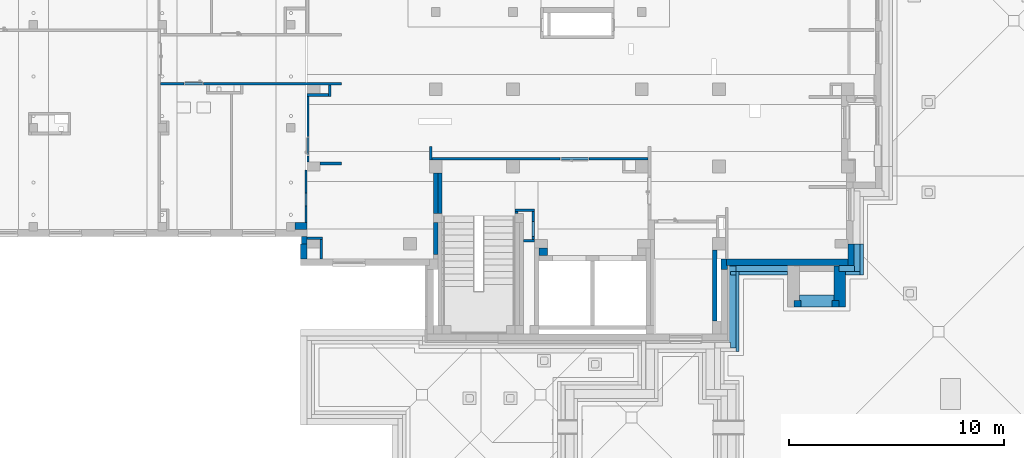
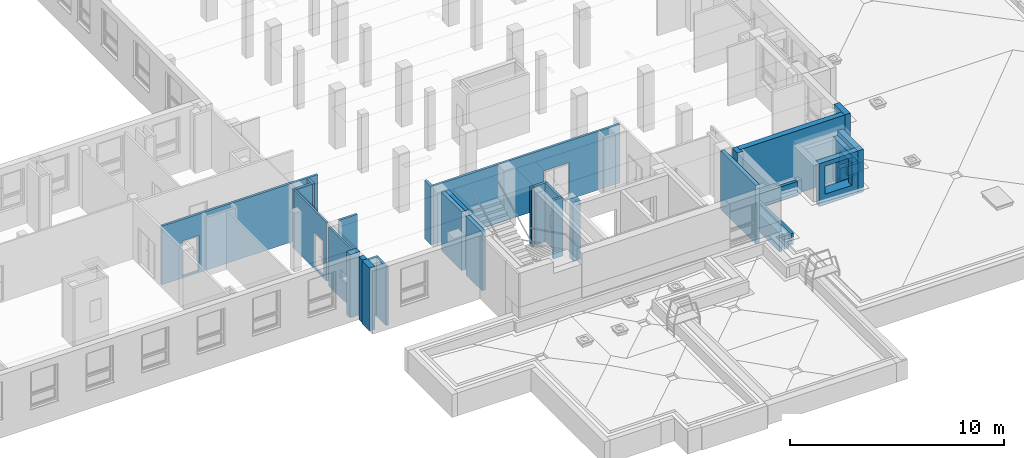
# One storey, part 22 of 50: 31 walls, 7 openings.
"""IFC4 building model written with IfcOpenShell, lengths in metres."""

from ifc_helpers import new_model, entity, si_unit, converted_unit, derived_unit, frame, frame_2d, origin, origin_with_axes, place, context, subcontext, project, spatial, polyline, rectangle, outline, extrude, clip, bounded_halfspace, material, layer, layer_set, layer_usage, element, save


model = new_model("IFC4")

# Units and contexts
model_context = context("Model", 3, precision=1e-05, world=origin())
body_context = subcontext(model_context, "Body", "Model", "MODEL_VIEW")
ifc_project = project(units=[si_unit("LENGTHUNIT", "METRE"), si_unit("AREAUNIT", "SQUARE_METRE"), si_unit("VOLUMEUNIT", "CUBIC_METRE"), si_unit("MASSUNIT", "GRAM", prefix="KILO"), converted_unit("PLANEANGLEUNIT", "DEGREE", entity("IfcPlaneAngleMeasure", 0.0174532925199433), si_unit("PLANEANGLEUNIT", "RADIAN"), dimensions=[0, 0, 0, 0, 0, 0, 0]), derived_unit("THERMALTRANSMITTANCEUNIT", [(si_unit("POWERUNIT", "WATT"), 1), (si_unit("THERMODYNAMICTEMPERATUREUNIT", "KELVIN"), -1), (si_unit("LENGTHUNIT", "METRE"), -2)]), derived_unit("VOLUMETRICFLOWRATEUNIT", [(si_unit("LENGTHUNIT", "METRE"), 3), (converted_unit("TIMEUNIT", "hour", entity("IfcTimeMeasure", 3600.0), si_unit("TIMEUNIT", "SECOND"), dimensions=[0, 0, 1, 0, 0, 0, 0]), -1), (si_unit("LENGTHUNIT", "METRE"), -1)])], contexts=[model_context])

# Site, building, storey
site_placement = place(None, origin())
site = spatial("IfcSite", under=ifc_project, at=site_placement, Name="3. ASŘ", CompositionType="ELEMENT")
building_placement = place(site_placement, origin())
building = spatial("IfcBuilding", under=site, at=building_placement, Name="Pavilon C", CompositionType="ELEMENT")
storey_placement = place(building_placement, frame((0.0, 0.0, 3.6)))
storey = spatial("IfcBuildingStorey", under=building, at=storey_placement, Name="Půdorys 2.NP", CompositionType="ELEMENT", Elevation=3.6)

# Walls
ifc_material_1 = material(Name="ZELEZOBETONOVÁ KCE")
ifc_layer_1 = layer(ifc_material_1, 0.3)
ifc_layer_set_1 = layer_set([ifc_layer_1])
ifc_layer_usage_1 = layer_usage(ifc_layer_set_1, "AXIS2", "POSITIVE", 0.0)
wall_1_placement = place(storey_placement, frame((24.45, -2.82073740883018e-15, -0.1), z_axis=(0.0, 0.0, 1.0), x_axis=(0.0, -1.0, 0.0)))
element("IfcWall", 1, at=wall_1_placement, inside=storey, material=ifc_layer_usage_1, Name="ZELEZOBETONOVÁ KCE", context=body_context, shape_type="SweptSolid", body=[
    extrude(rectangle(XDim=0.72, YDim=0.3, at=frame_2d((0.36, 0.15), x_axis=(1.0, 0.0))), origin_with_axes(), (0.0, 0.0, 1.0), 3.6),
])
ifc_material_2 = material(Name="ZELEZOBETONOVÁ KCE")
ifc_layer_2 = layer(ifc_material_2, 0.3)
ifc_layer_set_2 = layer_set([ifc_layer_2])
ifc_layer_usage_2 = layer_usage(ifc_layer_set_2, "AXIS2", "POSITIVE", 0.0)
wall_2_placement = place(storey_placement, frame((50.25, -1.02000000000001, -0.1), z_axis=(0.0, 0.0, 1.0), x_axis=(0.0, 1.0, 0.0)))
element("IfcWall", 2, at=wall_2_placement, inside=storey, material=ifc_layer_usage_2, Name="ZELEZOBETONOVÁ KCE", context=body_context, shape_type="SweptSolid", body=[
    extrude(rectangle(XDim=1.02, YDim=0.3, at=frame_2d((0.51, 0.15), x_axis=(1.0, 0.0))), origin_with_axes(), (0.0, 0.0, 1.0), 3.6),
])
ifc_material_3 = material(Name="ZELEZOBETONOVÁ KCE")
ifc_layer_3 = layer(ifc_material_3, 0.2)
ifc_layer_set_3 = layer_set([ifc_layer_3])
ifc_layer_usage_3 = layer_usage(ifc_layer_set_3, "AXIS2", "POSITIVE", 0.0)
wall_3_placement = place(storey_placement, frame((43.65, -0.299999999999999, -0.1), z_axis=(0.0, 0.0, 1.0), x_axis=(0.0, -1.0, 0.0)))
element("IfcWall", 3, at=wall_3_placement, inside=storey, material=ifc_layer_usage_3, Name="ZELEZOBETONOVÁ KCE", context=body_context, shape_type="SweptSolid", body=[
    extrude(rectangle(XDim=3.3, YDim=0.2, at=frame_2d((1.65, 0.1), x_axis=(1.0, 0.0))), origin_with_axes(), (0.0, 0.0, 1.0), 3.35),
])
ifc_material_4 = material(Name="ZELEZOBETONOVÁ KCE")
ifc_layer_4 = layer(ifc_material_4, 0.2)
ifc_layer_set_4 = layer_set([ifc_layer_4])
ifc_layer_usage_4 = layer_usage(ifc_layer_set_4, "AXIS2", "POSITIVE", 0.0)
wall_4_placement = place(storey_placement, frame((31.05, 1.4, -0.1), z_axis=(0.0, 0.0, 1.0), x_axis=(0.0, 1.0, 0.0)))
element("IfcWall", 4, at=wall_4_placement, inside=storey, material=ifc_layer_usage_4, Name="ZELEZOBETONOVÁ KCE", context=body_context, shape_type="SweptSolid", body=[
    extrude(rectangle(XDim=1.9, YDim=0.2, at=frame_2d((0.949999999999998, 0.1), x_axis=(1.0, 0.0))), origin_with_axes(), (0.0, 0.0, 1.0), 3.35),
])
ifc_material_5 = material(Name="ZELEZOBETONOVÁ KCE")
ifc_layer_5 = layer(ifc_material_5, 0.2)
ifc_layer_set_5 = layer_set([ifc_layer_5])
ifc_layer_usage_5 = layer_usage(ifc_layer_set_5, "AXIS2", "POSITIVE", 0.0)
wall_5_placement = place(storey_placement, frame((30.85, 1.4, -0.1), z_axis=(0.0, 0.0, 1.0), x_axis=(0.0, 1.0, 0.0)))
element("IfcWall", 5, at=wall_5_placement, inside=storey, material=ifc_layer_usage_5, Name="ZELEZOBETONOVÁ KCE", context=body_context, shape_type="SweptSolid", body=[
    extrude(rectangle(XDim=1.9, YDim=0.2, at=frame_2d((0.949999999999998, 0.1), x_axis=(1.0, 0.0))), origin_with_axes(), (0.0, 0.0, 1.0), 3.35),
])
ifc_material_6 = material(Name="ZELEZOBETONOVÁ KCE")
ifc_layer_6 = layer(ifc_material_6, 0.2)
ifc_layer_set_6 = layer_set([ifc_layer_6])
ifc_layer_usage_6 = layer_usage(ifc_layer_set_6, "AXIS2", "POSITIVE", 0.0)
wall_6_placement = place(storey_placement, frame((30.85, -0.499999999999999, -0.1), z_axis=(0.0, 0.0, 1.0), x_axis=(0.0, 1.0, 0.0)))
element("IfcWall", 6, at=wall_6_placement, inside=storey, material=ifc_layer_usage_6, Name="ZELEZOBETONOVÁ KCE", context=body_context, shape_type="SweptSolid", body=[
    extrude(rectangle(XDim=1.5, YDim=0.2, at=frame_2d((0.75, 0.1), x_axis=(1.0, 0.0))), origin_with_axes(), (0.0, 0.0, 1.0), 3.35),
])

# Wall, opening
ifc_material_7 = material(Name="ZDIVO Z CDm")
ifc_layer_7 = layer(ifc_material_7, 0.125)
ifc_layer_set_7 = layer_set([ifc_layer_7])
ifc_layer_usage_7 = layer_usage(ifc_layer_set_7, "AXIS2", "POSITIVE", 0.0)
wall_7_placement = place(storey_placement, frame((30.575, 3.9, -0.1)))
wall_7 = element("IfcWall", 7, at=wall_7_placement, inside=storey, material=ifc_layer_usage_7, Name="ZDIVO Z CDm", context=body_context, shape_type="SweptSolid", body=[
    extrude(rectangle(XDim=10.075, YDim=0.125, at=frame_2d((5.0375, 0.0625000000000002), x_axis=(1.0, 0.0))), origin_with_axes(), (0.0, 0.0, 1.0), 3.35),
])
opening_1_placement = place(wall_7_placement, frame((5.976, 0.0, 0.1), z_axis=(0.0, 1.0, 0.0), x_axis=(0.0, 0.0, 1.0)))
element("IfcOpeningElement", 8, at=opening_1_placement, cuts=wall_7, Name="Dveřní otvor", ObjectType="Opening", context=body_context, shape_type="SweptSolid", body=[
    extrude(outline(polyline([(0.0, 1.35), (2.02, 1.35), (2.02, 0.0), (0.0, 0.0), (0.0, 1.35)])), origin_with_axes(), (0.0, 0.0, 1.0), 0.125),
])

# Walls
ifc_material_8 = material(Name="ZDIVO Z CDm")
ifc_layer_8 = layer(ifc_material_8, 0.125)
ifc_layer_set_8 = layer_set([ifc_layer_8])
ifc_layer_usage_8 = layer_usage(ifc_layer_set_8, "AXIS2", "POSITIVE", 0.0)
wall_8_placement = place(storey_placement, frame((30.45, 4.525, -0.1), z_axis=(0.0, 0.0, 1.0), x_axis=(0.0, -1.0, 0.0)))
element("IfcWall", 9, at=wall_8_placement, inside=storey, material=ifc_layer_usage_8, Name="ZDIVO Z CDm", context=body_context, shape_type="SweptSolid", body=[
    extrude(rectangle(XDim=0.625, YDim=0.125, at=frame_2d((0.3125, 0.0625), x_axis=(1.0, 0.0))), origin_with_axes(), (0.0, 0.0, 1.0), 3.35),
])
ifc_material_9 = material(Name="ZDIVO Z CDm")
ifc_layer_9 = layer(ifc_material_9, 0.35)
ifc_layer_set_9 = layer_set([ifc_layer_9])
ifc_layer_usage_9 = layer_usage(ifc_layer_set_9, "AXIS2", "POSITIVE", 0.0)
wall_9_placement = place(storey_placement, frame((35.95, -0.200000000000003, -0.1), z_axis=(0.0, 0.0, 1.0), x_axis=(-1.0, 0.0, 0.0)))
element("IfcWall", 10, at=wall_9_placement, inside=storey, material=ifc_layer_usage_9, Name="ZDIVO Z CDm", context=body_context, shape_type="SweptSolid", body=[
    extrude(rectangle(XDim=0.4, YDim=0.35, at=frame_2d((0.2, 0.175), x_axis=(1.0, 0.0))), origin_with_axes(), (0.0, 0.0, 1.0), 3.35),
])
ifc_material_10 = material(Name="ZELEZOBETONOVÁ KCE")
ifc_layer_10 = layer(ifc_material_10, 0.3)
ifc_layer_set_10 = layer_set([ifc_layer_10])
ifc_layer_usage_10 = layer_usage(ifc_layer_set_10, "AXIS2", "POSITIVE", 0.0)
wall_10_placement = place(storey_placement, frame((44.3, -1.02, -0.1)))
element("IfcWall", 11, at=wall_10_placement, inside=storey, material=ifc_layer_usage_10, Name="ZELEZOBETONOVÁ KCE", context=body_context, shape_type="SweptSolid", body=[
    extrude(rectangle(XDim=5.65, YDim=0.3, at=frame_2d((2.825, 0.15), x_axis=(1.0, 0.0))), origin_with_axes(), (0.0, 0.0, 1.0), 3.6),
])
ifc_material_11 = material(Name="ZDIVO Z CDm")
ifc_layer_11 = layer(ifc_material_11, 0.48)
ifc_layer_set_11 = layer_set([ifc_layer_11])
ifc_layer_usage_11 = layer_usage(ifc_layer_set_11, "AXIS2", "POSITIVE", 0.0)
wall_11_placement = place(storey_placement, frame((44.3, -0.720000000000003, -0.1), z_axis=(0.0, 0.0, 1.0), x_axis=(-1.0, 0.0, 0.0)))
element("IfcWall", 12, at=wall_11_placement, inside=storey, material=ifc_layer_usage_11, Name="ZDIVO Z CDm", context=body_context, shape_type="SweptSolid", body=[
    extrude(outline(polyline([(-0.25, -0.48), (0.0, -0.48), (0.0, 0.0), (-0.3, 0.0), (-0.3, -0.18), (-0.25, -0.18), (-0.25, -0.48)])), frame((0.25, 0.48, 0.0), z_axis=(0.0, 0.0, 1.0), x_axis=(1.0, 0.0, 0.0)), (0.0, 0.0, 1.0), 3.6),
])
ifc_material_12 = material(Name="PÓROBETONOVÉ ZDIVO")
ifc_layer_12 = layer(ifc_material_12, 0.25)
ifc_layer_set_12 = layer_set([ifc_layer_12])
ifc_layer_usage_12 = layer_usage(ifc_layer_set_12, "AXIS2", "POSITIVE", 0.0)
wall_12_placement = place(storey_placement, frame((24.5, 0.350000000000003, -0.1), z_axis=(0.0, 0.0, 1.0), x_axis=(0.0, -1.0, 0.0)))
element("IfcWall", 13, at=wall_12_placement, inside=storey, material=ifc_layer_usage_12, Name="PÓROBETONOVÉ ZDIVO", context=body_context, shape_type="SweptSolid", body=[
    extrude(rectangle(XDim=0.350000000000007, YDim=0.25, at=frame_2d((0.175000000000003, 0.125), x_axis=(1.0, 0.0))), origin_with_axes(), (0.0, 0.0, 1.0), 3.6),
])
ifc_material_13 = material(Name="PÓROBETONOVÉ ZDIVO")
ifc_layer_13 = layer(ifc_material_13, 0.33)
ifc_layer_set_13 = layer_set([ifc_layer_13])
ifc_layer_usage_13 = layer_usage(ifc_layer_set_13, "AXIS2", "POSITIVE", 0.0)
wall_13_placement = place(storey_placement, frame((24.2, 0.670000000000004, -0.1)))
element("IfcWall", 14, at=wall_13_placement, inside=storey, material=ifc_layer_usage_13, Name="PÓROBETONOVÉ ZDIVO", context=body_context, shape_type="SweptSolid", body=[
    extrude(rectangle(XDim=0.549999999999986, YDim=0.33, at=frame_2d((0.274999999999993, 0.165), x_axis=(1.0, 0.0))), origin_with_axes(), (0.0, 0.0, 1.0), 3.6),
])
ifc_material_14 = material(Name="ZDIVO Z CDm")
ifc_layer_14 = layer(ifc_material_14, 0.125)
ifc_layer_set_14 = layer_set([ifc_layer_14])
ifc_layer_usage_14 = layer_usage(ifc_layer_set_14, "AXIS2", "POSITIVE", 0.0)
wall_14_placement = place(storey_placement, frame((35.35, 0.199999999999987, -0.1), z_axis=(0.0, 0.0, 1.0), x_axis=(-1.0, 1.13686837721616e-16, 0.0)))
element("IfcWall", 15, at=wall_14_placement, inside=storey, material=ifc_layer_usage_14, Name="ZDIVO Z CDm", context=body_context, shape_type="SweptSolid", body=[
    extrude(rectangle(XDim=0.5, YDim=0.125, at=frame_2d((0.25, 0.0625), x_axis=(1.0, 0.0))), origin_with_axes(), (0.0, 0.0, 1.0), 3.35),
])
ifc_material_15 = material(Name="ZDIVO Z CDm")
ifc_layer_15 = layer(ifc_material_15, 0.125)
ifc_layer_set_15 = layer_set([ifc_layer_15])
ifc_layer_usage_15 = layer_usage(ifc_layer_set_15, "AXIS2", "POSITIVE", 0.0)
wall_15_placement = place(storey_placement, frame((34.45, 1.5, -0.1), z_axis=(0.0, 0.0, 1.0), x_axis=(0.0, -1.0, 0.0)))
element("IfcWall", 16, at=wall_15_placement, inside=storey, material=ifc_layer_usage_15, Name="ZDIVO Z CDm", context=body_context, shape_type="SweptSolid", body=[
    extrude(rectangle(XDim=0.1, YDim=0.125, at=frame_2d((0.05, 0.0625), x_axis=(1.0, 0.0))), origin_with_axes(), (0.0, 0.0, 1.0), 3.35),
])
ifc_material_16 = material(Name="ZDIVO Z CDm")
ifc_layer_16 = layer(ifc_material_16, 0.125)
ifc_layer_set_16 = layer_set([ifc_layer_16])
ifc_layer_usage_16 = layer_usage(ifc_layer_set_16, "AXIS2", "POSITIVE", 0.0)
wall_16_placement = place(storey_placement, frame((34.45, 1.5, -0.1)))
element("IfcWall", 17, at=wall_16_placement, inside=storey, material=ifc_layer_usage_16, Name="ZDIVO Z CDm", context=body_context, shape_type="SweptSolid", body=[
    extrude(rectangle(XDim=0.900000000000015, YDim=0.125, at=frame_2d((0.450000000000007, 0.0625), x_axis=(1.0, 0.0))), origin_with_axes(), (0.0, 0.0, 1.0), 3.35),
])

# Wall, opening
ifc_material_17 = material(Name="ZDIVO Z CDm")
ifc_layer_17 = layer(ifc_material_17, 0.125)
ifc_layer_set_17 = layer_set([ifc_layer_17])
ifc_layer_usage_17 = layer_usage(ifc_layer_set_17, "AXIS2", "POSITIVE", 0.0)
wall_17_placement = place(storey_placement, frame((35.35, 0.199999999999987, -0.1), z_axis=(0.0, 0.0, 1.0), x_axis=(0.0, 1.0, 0.0)))
wall_17 = element("IfcWall", 18, at=wall_17_placement, inside=storey, material=ifc_layer_usage_17, Name="ZDIVO Z CDm", context=body_context, shape_type="SweptSolid", body=[
    extrude(rectangle(XDim=1.30000000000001, YDim=0.125, at=frame_2d((0.650000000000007, 0.0625), x_axis=(1.0, 0.0))), origin_with_axes(), (0.0, 0.0, 1.0), 3.35),
])
opening_2_placement = place(wall_17_placement, frame((0.15, 0.0, 1.1), z_axis=(0.0, 1.0, 0.0), x_axis=(0.0, 0.0, 1.0)))
element("IfcOpeningElement", 19, at=opening_2_placement, cuts=wall_17, Name="Okenní otvor", ObjectType="Opening", context=body_context, shape_type="SweptSolid", body=[
    extrude(outline(polyline([(0.0, 0.7), (0.7, 0.7), (0.7, 0.0), (0.0, 0.0), (0.0, 0.7)])), origin_with_axes(), (0.0, 0.0, 1.0), 0.125),
])

ifc_material_18 = material(Name="ZDIVO Z CDm")
ifc_layer_18 = layer(ifc_material_18, 0.125)
ifc_layer_set_18 = layer_set([ifc_layer_18])
ifc_layer_usage_18 = layer_usage(ifc_layer_set_18, "AXIS2", "POSITIVE", 0.0)
wall_18_placement = place(storey_placement, frame((17.925, 7.40000000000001, -0.1)))
wall_18 = element("IfcWall", 20, at=wall_18_placement, inside=storey, material=ifc_layer_usage_18, Name="ZDIVO Z CDm", context=body_context, shape_type="SweptSolid", body=[
    extrude(rectangle(XDim=8.42499999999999, YDim=0.125, at=frame_2d((4.2125, 0.0625), x_axis=(1.0, 0.0))), origin_with_axes(), (0.0, 0.0, 1.0), 3.35),
])
opening_3_placement = place(wall_18_placement, frame((1.1, 0.0, 0.1), z_axis=(0.0, 1.0, 0.0), x_axis=(0.0, 0.0, 1.0)))
element("IfcOpeningElement", 21, at=opening_3_placement, cuts=wall_18, Name="Dveřní otvor", ObjectType="Opening", context=body_context, shape_type="SweptSolid", body=[
    extrude(outline(polyline([(0.0, 0.9), (2.02, 0.9), (2.02, 0.0), (0.0, 0.0), (0.0, 0.9)])), origin_with_axes(), (0.0, 0.0, 1.0), 0.125),
])

# Walls
ifc_material_19 = material(Name="ZDIVO Z CDm")
ifc_layer_19 = layer(ifc_material_19, 0.125)
ifc_layer_set_19 = layer_set([ifc_layer_19])
ifc_layer_usage_19 = layer_usage(ifc_layer_set_19, "AXIS2", "POSITIVE", 0.0)
wall_19_placement = place(storey_placement, frame((24.75, 0.199999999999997, -0.1)))
element("IfcWall", 22, at=wall_19_placement, inside=storey, material=ifc_layer_usage_19, Name="ZDIVO Z CDm", context=body_context, shape_type="SweptSolid", body=[
    extrude(rectangle(XDim=0.725, YDim=0.125, at=frame_2d((0.3625, 0.0625), x_axis=(1.0, 0.0))), origin_with_axes(), (0.0, 0.0, 1.0), 3.35),
])
ifc_material_20 = material(Name="ZDIVO Z CDm")
ifc_layer_20 = layer(ifc_material_20, 0.125)
ifc_layer_set_20 = layer_set([ifc_layer_20])
ifc_layer_usage_20 = layer_usage(ifc_layer_set_20, "AXIS2", "POSITIVE", 0.0)
wall_20_placement = place(storey_placement, frame((25.35, 0.199999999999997, -0.1), z_axis=(0.0, 0.0, 1.0), x_axis=(0.0, -1.0, 0.0)))
element("IfcWall", 23, at=wall_20_placement, inside=storey, material=ifc_layer_usage_20, Name="ZDIVO Z CDm", context=body_context, shape_type="SweptSolid", body=[
    extrude(rectangle(XDim=0.92, YDim=0.125, at=frame_2d((0.46, 0.0625), x_axis=(1.0, 0.0))), origin_with_axes(), (0.0, 0.0, 1.0), 3.35),
])
ifc_material_21 = material(Name="ZDIVO Z CDm")
ifc_layer_21 = layer(ifc_material_21, 0.125)
ifc_layer_set_21 = layer_set([ifc_layer_21])
ifc_layer_usage_21 = layer_usage(ifc_layer_set_21, "AXIS2", "POSITIVE", 0.0)
wall_21_placement = place(storey_placement, frame((25.75, 7.40000000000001, -0.1), z_axis=(0.0, 0.0, 1.0), x_axis=(0.0, -1.0, 0.0)))
element("IfcWall", 24, at=wall_21_placement, inside=storey, material=ifc_layer_usage_21, Name="ZDIVO Z CDm", context=body_context, shape_type="SweptSolid", body=[
    extrude(rectangle(XDim=0.525, YDim=0.125, at=frame_2d((0.2625, 0.0625), x_axis=(1.0, 0.0))), origin_with_axes(), (0.0, 0.0, 1.0), 3.35),
])
ifc_material_22 = material(Name="ZDIVO Z CDm")
ifc_layer_22 = layer(ifc_material_22, 0.125)
ifc_layer_set_22 = layer_set([ifc_layer_22])
ifc_layer_usage_22 = layer_usage(ifc_layer_set_22, "AXIS2", "POSITIVE", 0.0)
wall_22_placement = place(storey_placement, frame((25.75, 7.00000000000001, -0.1), z_axis=(0.0, 0.0, 1.0), x_axis=(-1.0, 0.0, 0.0)))
element("IfcWall", 25, at=wall_22_placement, inside=storey, material=ifc_layer_usage_22, Name="ZDIVO Z CDm", context=body_context, shape_type="SweptSolid", body=[
    extrude(rectangle(XDim=1.0, YDim=0.125, at=frame_2d((0.5, 0.0625), x_axis=(1.0, 0.0))), origin_with_axes(), (0.0, 0.0, 1.0), 3.35),
])

# Wall, opening
ifc_material_23 = material(Name="PÓROBETONOVÉ ZDIVO")
ifc_layer_23 = layer(ifc_material_23, 0.1)
ifc_layer_set_23 = layer_set([ifc_layer_23])
ifc_layer_usage_23 = layer_usage(ifc_layer_set_23, "AXIS2", "POSITIVE", 0.0)
wall_23_placement = place(storey_placement, frame((24.75, 6.87500000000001, -0.1), z_axis=(0.0, 0.0, 1.0), x_axis=(0.0, -1.0, 0.0)))
wall_23 = element("IfcWall", 26, at=wall_23_placement, inside=storey, material=ifc_layer_usage_23, Name="PÓROBETONOVÉ ZDIVO", context=body_context, shape_type="SweptSolid", body=[
    extrude(rectangle(XDim=3.07500000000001, YDim=0.1, at=frame_2d((1.5375, 0.05), x_axis=(1.0, 0.0))), origin_with_axes(), (0.0, 0.0, 1.0), 3.35),
])
opening_4_placement = place(wall_23_placement, frame((1.87500000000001, 0.0, 0.1), z_axis=(0.0, 1.0, 0.0), x_axis=(0.0, 0.0, 1.0)))
element("IfcOpeningElement", 27, at=opening_4_placement, cuts=wall_23, Name="Dveřní otvor", ObjectType="Opening", context=body_context, shape_type="SweptSolid", body=[
    extrude(outline(polyline([(0.0, 0.9), (2.02, 0.9), (2.02, 0.0), (0.0, 0.0), (0.0, 0.9)])), origin_with_axes(), (0.0, 0.0, 1.0), 0.1),
])

ifc_material_24 = material(Name="PÓROBETONOVÉ ZDIVO")
ifc_layer_24 = layer(ifc_material_24, 0.1)
ifc_layer_set_24 = layer_set([ifc_layer_24])
ifc_layer_usage_24 = layer_usage(ifc_layer_set_24, "AXIS2", "POSITIVE", 0.0)
wall_24_placement = place(storey_placement, frame((24.75, 1.0, -0.1), z_axis=(0.0, 0.0, 1.0), x_axis=(0.0, 1.0, 0.0)))
wall_24 = element("IfcWall", 28, at=wall_24_placement, inside=storey, material=ifc_layer_usage_24, Name="PÓROBETONOVÉ ZDIVO", context=body_context, shape_type="SweptSolid", body=[
    extrude(rectangle(XDim=2.44999999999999, YDim=0.1, at=frame_2d((1.225, 0.05), x_axis=(1.0, 0.0))), origin_with_axes(), (0.0, 0.0, 1.0), 3.35),
])
opening_5_placement = place(wall_24_placement, frame((1.37, 0.1, 1.1), z_axis=(0.0, -1.0, 0.0), x_axis=(0.0, 0.0, 1.0)))
element("IfcOpeningElement", 29, at=opening_5_placement, cuts=wall_24, Name="Okenní otvor", ObjectType="Opening", context=body_context, shape_type="SweptSolid", body=[
    extrude(outline(polyline([(0.0, 0.619999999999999), (0.5, 0.619999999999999), (0.5, 0.0), (0.0, 0.0), (0.0, 0.619999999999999)])), origin_with_axes(), (0.0, 0.0, 1.0), 0.1),
])

# Wall
ifc_material_25 = material(Name="ZDIVO Z CDm")
ifc_layer_25 = layer(ifc_material_25, 0.125)
ifc_layer_set_25 = layer_set([ifc_layer_25])
ifc_layer_usage_25 = layer_usage(ifc_layer_set_25, "AXIS2", "POSITIVE", 0.0)
wall_25_placement = place(storey_placement, frame((26.35, 3.8, -0.1), z_axis=(0.0, 0.0, 1.0), x_axis=(-1.0, 0.0, 0.0)))
element("IfcWall", 30, at=wall_25_placement, inside=storey, material=ifc_layer_usage_25, Name="ZDIVO Z CDm", context=body_context, shape_type="SweptSolid", body=[
    extrude(rectangle(XDim=1.0, YDim=0.125, at=frame_2d((0.5, 0.0625), x_axis=(1.0, 0.0))), origin_with_axes(), (0.0, 0.0, 1.0), 3.35),
])

# Wall, openings
ifc_material_26 = material(Name="ZELEZOBETONOVÁ KCE")
ifc_layer_26 = layer(ifc_material_26, 0.25)
ifc_material_27 = material(Name="MINERÁLNÍ VATA")
ifc_layer_27 = layer(ifc_material_27, 0.3)
ifc_layer_set_26 = layer_set([ifc_layer_26, ifc_layer_27])
ifc_layer_usage_26 = layer_usage(ifc_layer_set_26, "AXIS2", "POSITIVE", 0.0)
wall_26_placement = place(storey_placement, frame((49.3, -2.39000000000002, 0.05), z_axis=(0.0, 0.0, 1.0), x_axis=(-1.0, 0.0, 0.0)))
wall_26 = element("IfcWall", 31, at=wall_26_placement, inside=storey, material=ifc_layer_usage_26, Name="MINERÁLNÍ VATA", context=body_context, shape_type="Clipping", body=[
    clip(clip(extrude(outline(polyline([(-1.85, -0.55), (-0.25, -0.55), (-0.25, -0.3), (0.0, -0.3), (0.0, 0.0), (-2.1, 0.0), (-2.1, -0.3), (-1.85, -0.3), (-1.85, -0.55)])), frame((1.85, 0.55, 0.0), z_axis=(0.0, 0.0, 1.0), x_axis=(1.0, 0.0, 0.0)), (0.0, 0.0, 1.0), 2.7), bounded_halfspace(frame((0.8, 0.35, 0.26), z_axis=(0.0, 6.67684602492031e-16, 1.0), x_axis=(0.0, -1.0, 0.0)), True, origin_with_axes(), polyline([(-0.25, 0.55), (-0.25, 0.25), (0.0, 0.25), (1.6, 0.25), (1.85, 0.25), (1.85, 0.55), (-0.25, 0.55)]))), bounded_halfspace(frame((0.8, 0.125, 2.45), z_axis=(0.0, 0.0, -1.0), x_axis=(1.0, 0.0, 0.0)), True, origin_with_axes(), polyline([(0.0, 0.0), (1.6, 0.0), (1.6, 0.25), (0.0, 0.25), (0.0, 0.0)]))),
])
opening_6_placement = place(wall_26_placement, frame((0.0, 0.0, 0.85), z_axis=(0.0, 1.0, 0.0), x_axis=(0.0, 0.0, 1.0)))
element("IfcOpeningElement", 32, at=opening_6_placement, cuts=wall_26, Name="Prostup stěnou", ObjectType="Opening", context=body_context, shape_type="SweptSolid", body=[
    extrude(outline(polyline([(0.0, 1.6), (1.6, 1.6), (1.6, 0.0), (0.0, 0.0), (0.0, 1.6)])), origin_with_axes(), (0.0, 0.0, 1.0), 0.25),
])
opening_7_placement = place(wall_26_placement, frame((1.52499999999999, 0.55, 0.85), z_axis=(0.0, -1.0, 0.0), x_axis=(0.0, 0.0, 1.0)))
element("IfcOpeningElement", 33, at=opening_7_placement, cuts=wall_26, Name="Prostup stěnou", ObjectType="Opening", context=body_context, shape_type="SweptSolid", body=[
    extrude(outline(polyline([(0.0, 1.45), (1.6, 1.45), (1.6, 0.0), (0.0, 0.0), (0.0, 1.45)])), origin_with_axes(), (0.0, 0.0, 1.0), 0.3),
])

# Walls
ifc_material_28 = material(Name="ZELEZOBETONOVÁ KCE")
ifc_layer_28 = layer(ifc_material_28, 0.25)
ifc_material_29 = material(Name="MINERÁLNÍ VATA")
ifc_layer_29 = layer(ifc_material_29, 0.3)
ifc_layer_set_27 = layer_set([ifc_layer_28, ifc_layer_29])
ifc_layer_usage_27 = layer_usage(ifc_layer_set_27, "AXIS2", "POSITIVE", 0.0)
wall_27_placement = place(storey_placement, frame((49.3, -1.04000000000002, 0.05), z_axis=(0.0, 0.0, 1.0), x_axis=(0.0, -1.0, 0.0)))
element("IfcWall", 34, at=wall_27_placement, inside=storey, material=ifc_layer_usage_27, Name="MINERÁLNÍ VATA", context=body_context, shape_type="Clipping", body=[
    clip(clip(clip(extrude(outline(polyline([(-1.9, 0.0), (-0.3, 0.0), (-0.3, 0.25), (0.0, 0.25), (0.0, 0.55), (-1.92, 0.55), (-1.92, 0.25), (-1.9, 0.25), (-1.9, 0.0)])), frame((1.9, 0.0, 0.0), z_axis=(0.0, 0.0, 1.0), x_axis=(1.0, 0.0, 0.0)), (0.0, 0.0, 1.0), 2.7), bounded_halfspace(frame((0.0919999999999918, 0.37, 0.7), z_axis=(0.0, 0.0, 1.0), x_axis=(7.5791225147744e-16, -1.0, 0.0)), True, origin_with_axes(), polyline([(-0.0200000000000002, 0.55), (-0.02, 0.25), (0.0, 0.25), (0.24999999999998, 0.25), (0.24999999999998, 0.55), (-0.0200000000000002, 0.55)]))), bounded_halfspace(frame((1.17999999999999, 0.37, 0.26), z_axis=(0.0, 7.5791225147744e-16, 1.0), x_axis=(1.0, 0.0, 3.36849889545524e-16)), True, origin_with_axes(), polyline([(0.24999999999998, 0.25), (1.6, 0.25), (1.9, 0.25), (1.9, 0.55), (0.249999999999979, 0.55), (0.24999999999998, 0.25)]))), bounded_halfspace(frame((0.8, 0.125, 2.45), z_axis=(0.0, 0.0, -1.0), x_axis=(1.0, 0.0, 0.0)), True, origin_with_axes(), polyline([(0.0, 0.0), (1.6, 0.0), (1.6, 0.25), (0.0, 0.25), (0.0, 0.0)]))),
])
ifc_material_30 = material(Name="EPS")
wall_28_placement = place(storey_placement, frame((47.45, -1.02, -0.2), z_axis=(0.0, 0.0, 1.0), x_axis=(-1.0, 7.33463469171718e-17, 0.0)))
element("IfcWall", 35, at=wall_28_placement, inside=storey, material=ifc_material_30, Name="MINERÁLNÍ VATA", context=body_context, shape_type="Clipping", body=[
    clip(clip(clip(extrude(outline(polyline([(-0.54, -0.16), (-0.54, -2.66980702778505e-16), (-2.79999999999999, -2.05369771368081e-16), (-2.79999999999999, -0.16), (-3.09999999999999, -0.16), (-3.09999999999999, -0.43), (3.15389291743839e-17, -0.43), (3.00720022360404e-17, -0.41), (-0.38, -0.41), (-0.38, -0.16), (-0.54, -0.16)])), frame((3.09999999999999, 0.43, 0.0), z_axis=(0.0, 0.0, 1.0), x_axis=(1.0, 0.0, 0.0)), (0.0, 0.0, 1.0), 1.15), bounded_halfspace(frame((1.42999999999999, 0.35, 0.51), z_axis=(0.0, 0.0, 1.0), x_axis=(1.0, 7.33463469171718e-17, 0.0)), True, origin_with_axes(), polyline([(0.3, 0.27), (2.55999999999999, 0.27), (2.55999999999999, 0.43), (0.3, 0.43), (0.3, 0.27)]))), bounded_halfspace(frame((1.35999999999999, 0.145, 0.25), z_axis=(0.0, 0.0, 1.0), x_axis=(7.33463469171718e-17, -1.0, 0.0)), True, origin_with_axes(), polyline([(-1.98035136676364e-17, 0.27), (-1.46692693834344e-18, 0.02), (2.71999999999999, 0.02), (2.71999999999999, 0.27), (-1.98035136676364e-17, 0.27)]))), bounded_halfspace(frame((1.8125, 0.14, 1.05), z_axis=(0.0, 0.0, -1.0), x_axis=(1.0, 0.0, 0.0)), True, origin_with_axes(), polyline([(-8.33851423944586e-33, 1.13686837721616e-16), (3.09999999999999, 1.13686837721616e-16), (3.09999999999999, 0.0200000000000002), (2.71999999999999, 0.0200000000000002), (2.71999999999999, 0.27), (2.55999999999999, 0.27), (0.3, 0.27), (-1.98035136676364e-17, 0.27), (-8.33851423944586e-33, 1.13686837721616e-16)]))),
    clip(clip(clip(extrude(rectangle(XDim=0.16, YDim=0.25, at=frame_2d((-0.125, 0.0799999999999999), x_axis=(-7.33463469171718e-17, 1.0))), frame((2.96999999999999, 0.27, 0.0), z_axis=(0.0, 0.0, 1.0), x_axis=(1.0, 0.0, 0.0)), (0.0, 0.0, 1.0), 1.15), bounded_halfspace(frame((1.42999999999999, 0.35, 0.51), z_axis=(0.0, 0.0, 1.0), x_axis=(1.0, 7.33463469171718e-17, 0.0)), True, origin_with_axes(), polyline([(0.3, 0.27), (2.55999999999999, 0.27), (2.55999999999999, 0.43), (0.3, 0.43), (0.3, 0.27)]))), bounded_halfspace(frame((1.35999999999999, 0.145, 0.25), z_axis=(0.0, 0.0, 1.0), x_axis=(7.33463469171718e-17, -1.0, 0.0)), True, origin_with_axes(), polyline([(-1.98035136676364e-17, 0.27), (-1.46692693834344e-18, 0.02), (2.71999999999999, 0.02), (2.71999999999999, 0.27), (-1.98035136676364e-17, 0.27)]))), bounded_halfspace(frame((1.8125, 0.14, 1.05), z_axis=(0.0, 0.0, -1.0), x_axis=(1.0, 0.0, 0.0)), True, origin_with_axes(), polyline([(-8.33851423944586e-33, 1.13686837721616e-16), (3.09999999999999, 1.13686837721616e-16), (3.09999999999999, 0.0200000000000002), (2.71999999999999, 0.0200000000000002), (2.71999999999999, 0.27), (2.55999999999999, 0.27), (0.3, 0.27), (-1.98035136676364e-17, 0.27), (-8.33851423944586e-33, 1.13686837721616e-16)]))),
])
ifc_material_31 = material(Name="EPS")
ifc_layer_30 = layer(ifc_material_31, 0.13)
ifc_material_32 = material(Name="ZELEZOBETONOVÁ KCE")
ifc_layer_31 = layer(ifc_material_32, 0.25)
ifc_material_33 = material(Name="MINERÁLNÍ VATA")
ifc_layer_32 = layer(ifc_material_33, 0.16)
ifc_layer_set_28 = layer_set([ifc_layer_30, ifc_layer_31, ifc_layer_32])
ifc_layer_usage_28 = layer_usage(ifc_layer_set_28, "AXIS2", "POSITIVE", -0.13)
wall_29_placement = place(storey_placement, frame((44.35, -1.04, -0.2), z_axis=(0.0, 0.0, 1.0), x_axis=(0.0, -1.0, 0.0)))
element("IfcWall", 36, at=wall_29_placement, inside=storey, material=ifc_layer_usage_28, Name="MINERÁLNÍ VATA", context=body_context, shape_type="Clipping", body=[
    clip(clip(clip(extrude(outline(polyline([(-3.97000000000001, 0.0), (-0.41, 0.0), (-0.41, 0.13), (-0.16, 0.13), (-0.16, 0.38), (0.0, 0.38), (0.0, 0.54), (-3.97000000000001, 0.54), (-3.97000000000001, 0.0)])), frame((3.97000000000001, 0.0, 0.0), z_axis=(0.0, 0.0, 1.0), x_axis=(1.0, 0.0, 0.0)), (0.0, 0.0, 1.0), 1.15), bounded_halfspace(frame((2.236, 0.229999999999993, 0.25), z_axis=(0.0, 0.0, 1.0), x_axis=(0.0, -1.0, 0.0)), True, origin_with_axes(), polyline([(2.27373675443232e-16, 0.379999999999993), (2.27373675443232e-16, 0.129999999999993), (3.56000000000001, 0.129999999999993), (3.81, 0.129999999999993), (3.81, 0.379999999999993), (2.27373675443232e-16, 0.379999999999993)]))), bounded_halfspace(frame((2.45, 0.443999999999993, 0.510000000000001), z_axis=(0.0, 0.0, 1.0), x_axis=(1.0, 0.0, 0.0)), True, origin_with_axes(), polyline([(0.25, 0.379999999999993), (3.81, 0.379999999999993), (3.97000000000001, 0.379999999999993), (3.97000000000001, 0.539999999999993), (0.25, 0.539999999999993), (0.25, 0.379999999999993)]))), bounded_halfspace(frame((2.14142857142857, 0.199999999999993, 1.05), z_axis=(0.0, 0.0, -1.0), x_axis=(1.0, 0.0, 0.0)), True, origin_with_axes(), polyline([(2.27373675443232e-16, -7.27595761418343e-15), (3.56000000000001, -7.27595761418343e-15), (3.56000000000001, 0.129999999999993), (3.81, 0.129999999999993), (3.81, 0.379999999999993), (0.249999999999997, 0.379999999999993), (2.27373675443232e-16, 0.379999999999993), (2.27373675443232e-16, -7.27595761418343e-15)]))),
])
ifc_material_34 = material(Name="EPS")
ifc_layer_33 = layer(ifc_material_34, 0.02)
ifc_material_35 = material(Name="ZELEZOBETONOVÁ KCE")
ifc_layer_34 = layer(ifc_material_35, 0.25)
ifc_material_36 = material(Name="MINERÁLNÍ VATA")
ifc_layer_35 = layer(ifc_material_36, 0.16)
ifc_layer_set_29 = layer_set([ifc_layer_33, ifc_layer_34, ifc_layer_35])
ifc_layer_usage_29 = layer_usage(ifc_layer_set_29, "AXIS2", "POSITIVE", -0.02)
wall_30_placement = place(storey_placement, frame((50.25, -5.51980683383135e-15, -0.2), z_axis=(0.0, 0.0, 1.0), x_axis=(0.0, -1.0, 0.0)))
element("IfcWall", 37, at=wall_30_placement, inside=storey, material=ifc_layer_usage_29, Name="MINERÁLNÍ VATA", context=body_context, shape_type="Clipping", body=[
    clip(clip(clip(clip(extrude(outline(polyline([(-1.44999999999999, 0.0), (-0.21, 0.0), (-0.21, 0.02), (-0.16, 0.02), (-0.16, 0.27), (0.0, 0.27), (0.0, 0.43), (-1.44999999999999, 0.43), (-1.44999999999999, 0.0)])), frame((1.44999999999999, 0.0, 0.0), z_axis=(0.0, 0.0, 1.0), x_axis=(1.0, 0.0, 0.0)), (0.0, 0.0, 1.0), 1.05), bounded_halfspace(frame((0.809999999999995, 0.103333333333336, 0.25), z_axis=(0.0, 0.0, 1.0), x_axis=(0.0, -1.0, 0.0)), True, origin_with_axes(), polyline([(5.08482145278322e-17, 0.270000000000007), (5.08482145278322e-17, 0.02), (1.03999999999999, 0.02), (1.23999999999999, 0.02), (1.28999999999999, 0.0200000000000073), (1.28999999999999, 0.270000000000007), (5.08482145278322e-17, 0.270000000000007)]))), bounded_halfspace(frame((0.837999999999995, 0.334000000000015, 0.510000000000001), z_axis=(0.0, 0.0, 1.0), x_axis=(7.105427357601e-16, -1.0, 0.0)), True, origin_with_axes(), polyline([(-6.28386231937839e-17, 0.430000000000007), (5.08482145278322e-17, 0.270000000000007), (1.28999999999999, 0.270000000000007), (1.44999999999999, 0.270000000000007), (1.44999999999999, 0.430000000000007), (-6.28386231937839e-17, 0.430000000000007)]))), bounded_halfspace(frame((1.13999999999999, 0.01, 0.25), z_axis=(0.0, 0.0, -1.0), x_axis=(0.0, -1.0, 0.0)), True, origin_with_axes(), polyline([(1.03999999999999, 0.02), (1.03999999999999, 0.0), (1.23999999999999, 0.0), (1.23999999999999, 0.02), (1.03999999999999, 0.02)]))), bounded_halfspace(frame((0.776666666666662, 0.0966666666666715, 0.95), z_axis=(0.0, 0.0, -1.0), x_axis=(1.0, 0.0, 0.0)), True, origin_with_axes(), polyline([(5.08482145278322e-17, 0.0), (1.03999999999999, 0.0), (1.03999999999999, 0.02), (1.28999999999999, 0.0200000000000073), (1.28999999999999, 0.270000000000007), (5.08482145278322e-17, 0.270000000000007), (5.08482145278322e-17, 0.0)]))),
])
ifc_material_37 = material(Name="EPS")
ifc_layer_36 = layer(ifc_material_37, 0.0199999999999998)
ifc_material_38 = material(Name="ZELEZOBETONOVÁ KCE")
ifc_layer_37 = layer(ifc_material_38, 0.25)
ifc_material_39 = material(Name="MINERÁLNÍ VATA")
ifc_layer_38 = layer(ifc_material_39, 0.16)
ifc_layer_set_30 = layer_set([ifc_layer_36, ifc_layer_37, ifc_layer_38])
ifc_layer_usage_30 = layer_usage(ifc_layer_set_30, "AXIS2", "POSITIVE", -0.02)
wall_31_placement = place(storey_placement, frame((50.25, -1.02, -0.2), z_axis=(0.0, 0.0, 1.0), x_axis=(-1.0, 0.0, 0.0)))
element("IfcWall", 38, at=wall_31_placement, inside=storey, material=ifc_layer_usage_30, Name="MINERÁLNÍ VATA", context=body_context, shape_type="Clipping", body=[
    clip(clip(clip(extrude(outline(polyline([(-0.720000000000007, -0.41), (-0.700000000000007, -0.41), (-0.700000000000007, -0.43), (0.0, -0.43), (0.0, -0.16), (-0.3, -0.16), (-0.3, 0.0), (-0.970000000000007, 0.0), (-0.970000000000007, -0.16), (-0.720000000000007, -0.16), (-0.720000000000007, -0.41)])), frame((0.700000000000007, 0.43, 0.0), z_axis=(0.0, 0.0, 1.0), x_axis=(1.0, 0.0, 0.0)), (0.0, 0.0, 1.0), 1.05), bounded_halfspace(frame((0.272, 0.12, 0.25), z_axis=(0.0, 0.0, 1.0), x_axis=(0.0, -1.0, 0.0)), True, origin_with_axes(), polyline([(-0.02, 0.27), (-0.02, 0.0199999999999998), (0.0, 0.0199999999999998), (0.700000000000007, 0.0199999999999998), (0.700000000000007, 0.27), (-0.02, 0.27)]))), bounded_halfspace(frame((0.048, 0.334, 0.510000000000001), z_axis=(0.0, 0.0, 1.0), x_axis=(0.0, -1.0, 0.0)), True, origin_with_axes(), polyline([(-0.270000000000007, 0.43), (-0.270000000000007, 0.27), (-0.02, 0.27), (0.4, 0.27), (0.4, 0.43), (-0.270000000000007, 0.43)]))), bounded_halfspace(frame((0.25142857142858, 0.121428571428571, 0.95), z_axis=(0.0, 0.0, -1.0), x_axis=(1.0, 0.0, 0.0)), True, origin_with_axes(), polyline([(0.0, 0.0), (0.700000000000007, 0.0), (0.700000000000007, 0.27), (0.4, 0.27), (-0.02, 0.27), (-0.02, 0.0199999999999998), (0.0, 0.0199999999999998), (0.0, 0.0)]))),
])

save(model, "model.ifc")
